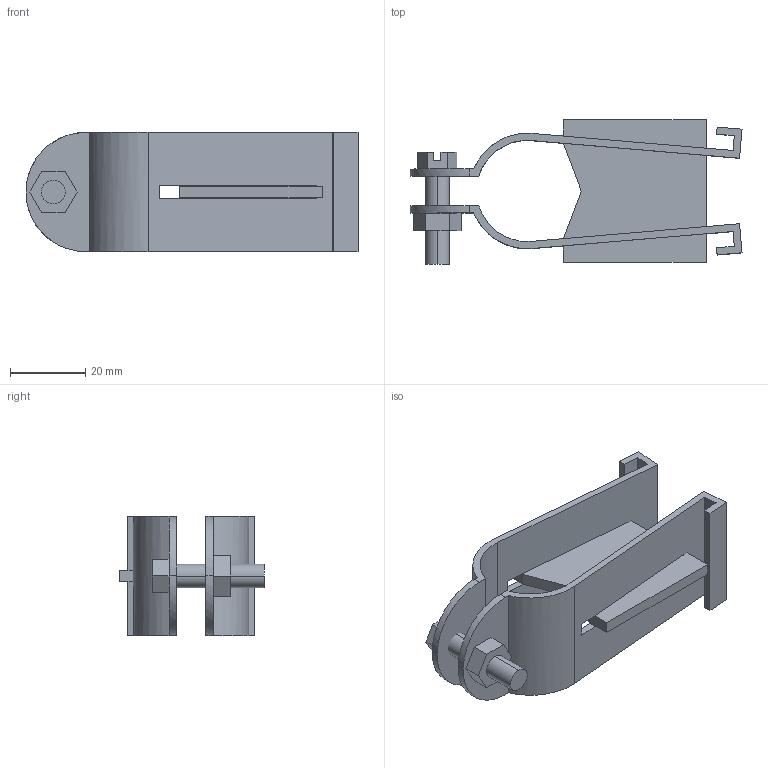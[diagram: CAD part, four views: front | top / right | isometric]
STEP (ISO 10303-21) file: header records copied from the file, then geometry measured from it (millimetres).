
FILE_DESCRIPTION(('TurboCAD Mac Pro'),'Build 980');
FILE_NAME('P1565.stp',' ',(''),(''),'ACIS Interop','IMSI','TurboCAD Mac Pro BY IMSI, INCORPORATED');
FILE_SCHEMA(('automotive_design'));
Length unit declared in the file: inch
Products named in the file (6): 1; 2; 3; 4; 5; 6
Bounding box: 88.53 x 38.56 x 31.74 mm (x, y, z)
Volume: 17266.5 mm3; surface area: 17846.1 mm2
Topology: 5 solids, 5 shells, 76 faces, 195 edges, 130 vertices
Faces by surface type: plane 60, bspline 16
Entity records: 4110 total; most frequent: CARTESIAN_POINT 653, ORIENTED_EDGE 390, DIRECTION 301, STYLED_ITEM 260, PRESENTATION_STYLE_ASSIGNMENT 260, COLOUR_RGB 260, EDGE_CURVE 195, CURVE_STYLE 179
